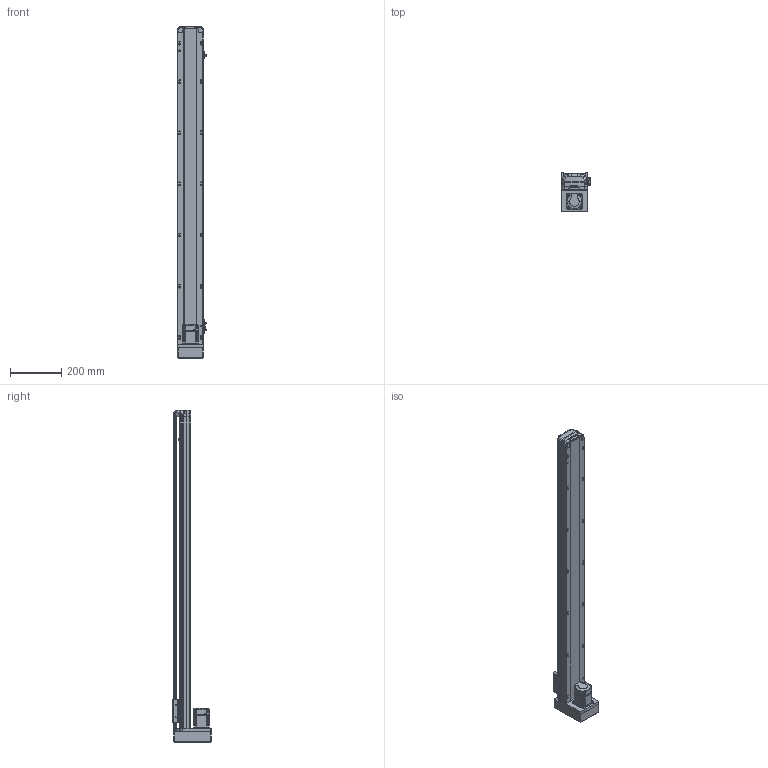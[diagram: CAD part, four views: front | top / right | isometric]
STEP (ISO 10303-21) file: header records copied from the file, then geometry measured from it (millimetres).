
FILE_DESCRIPTION (( 'STEP AP214' ), '1' );
FILE_NAME ('RTH10-XX-1050-M-M20-C4.STEP', '2025-10-25T04:53:45', ( 'Microsoft' ), ( 'Microsoft' ), 'SwSTEP 2.0', 'SolidWorks 2018', '' );
FILE_SCHEMA (( 'AUTOMOTIVE_DESIGN' ));
Length unit declared in the file: millimetre
Products named in the file (10): N_200W-1^RTH10-XX-XX-M-M20-C4; RTH10-XX-1050-M-M20-C4; N_OMRON EE-SX672 传感器^RTH10-XX-XX-M-M20-C4; N_RTH12-GY-004-賑釱^RTH10-XX-XX-M-M20-C4; N_RTH12-M-008-萇儂啣^RTH10-XX-XX-M-M20-C4; N_RTH12-M-007P-奻裔^RTH10-XX-XX-M-M20-C4; N_RTH12-M-018-裔赽^RTH10-XX-XX-M-M20-C4; N_RTH12-M-011P-臏倰第菁釱^RTH10-XX-XX-M-M20-C4; N_RTH13-L-012覜茼え俋离^RTH10-XX-XX-M-M20-C4; N_RTH12-GY-001P^RTH10-XX-XX-M-M20-C4
Assembly tree (11 placements, depth 2):
  RTH10-XX-1050-M-M20-C4
    N_RTH12-M-011P-臏倰第菁釱^RTH10-XX-XX-M-M20-C4
    N_RTH13-L-012覜茼え俋离^RTH10-XX-XX-M-M20-C4
    N_OMRON EE-SX672 传感器^RTH10-XX-XX-M-M20-C4  x3
    N_200W-1^RTH10-XX-XX-M-M20-C4
    N_RTH12-M-007P-奻裔^RTH10-XX-XX-M-M20-C4
    N_RTH12-M-008-萇儂啣^RTH10-XX-XX-M-M20-C4
    N_RTH12-M-018-裔赽^RTH10-XX-XX-M-M20-C4
    N_RTH12-GY-004-賑釱^RTH10-XX-XX-M-M20-C4
    N_RTH12-GY-001P^RTH10-XX-XX-M-M20-C4
Bounding box: 116.5 x 149 x 1297.31 mm (x, y, z)
Volume: 5725885.6 mm3; surface area: 844680.7 mm2
Topology: 10 solids, 12 shells, 2029 faces, 5680 edges, 3731 vertices
Faces by surface type: plane 999, cylinder 523, bspline 472, cone 29, sphere 4, torus 2
Entity records: 61574 total; most frequent: CARTESIAN_POINT 23875, ORIENTED_EDGE 8432, DIRECTION 6590, EDGE_CURVE 4222, VERTEX_POINT 2775, VECTOR 2250, LINE 2250, AXIS2_PLACEMENT_3D 2170
